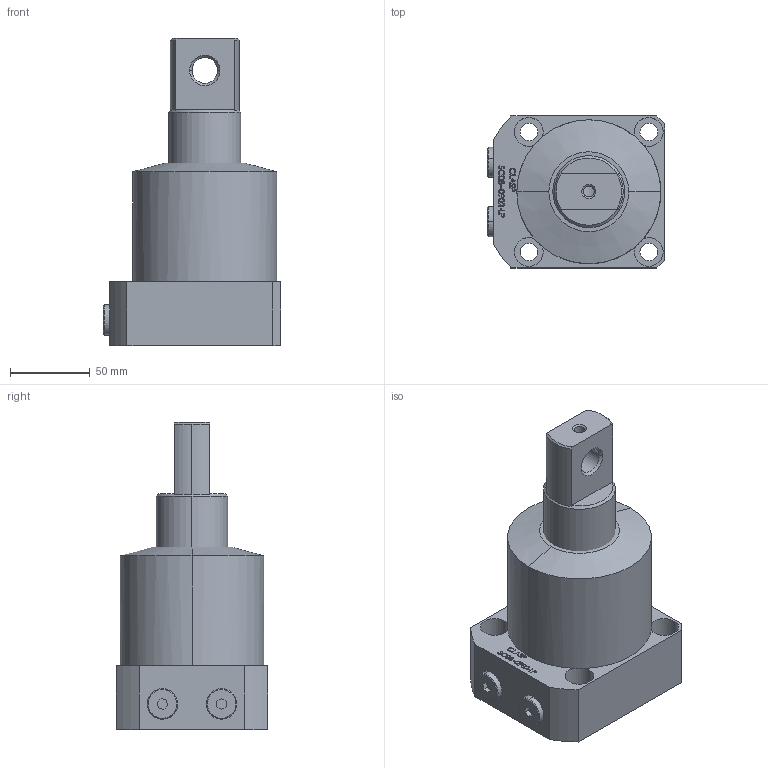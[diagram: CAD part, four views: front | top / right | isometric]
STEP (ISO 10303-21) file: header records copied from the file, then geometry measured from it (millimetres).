
FILE_DESCRIPTION (( 'STEP AP203' ), '1' );
FILE_NAME ('SC08-0902-LP.STEP', '2022-07-08T17:06:11', ( '' ), ( '' ), 'SwSTEP 2.0', 'SolidWorks 2017', '' );
FILE_SCHEMA (( 'CONFIG_CONTROL_DESIGN' ));
Length unit declared in the file: millimetre
Products named in the file (4): SC-08-0902-LP BODY; SC-08-0902-LP+Piston; SC08-0902-LP-05 plug; SC08-0902-LP
Assembly tree (4 placements, depth 2):
  SC08-0902-LP
    SC-08-0902-LP BODY
    SC-08-0902-LP+Piston
    SC08-0902-LP-05 plug  x2
Bounding box: 111 x 95 x 192 mm (x, y, z)
Volume: 937650 mm3; surface area: 81693.6 mm2
Topology: 4 solids, 4 shells, 336 faces, 840 edges, 551 vertices
Faces by surface type: plane 145, bspline 119, cylinder 51, cone 21
Entity records: 17031 total; most frequent: CARTESIAN_POINT 9572, ORIENTED_EDGE 1616, DIRECTION 1109, EDGE_CURVE 808, VERTEX_POINT 531, LINE 429, VECTOR 429, EDGE_LOOP 371
